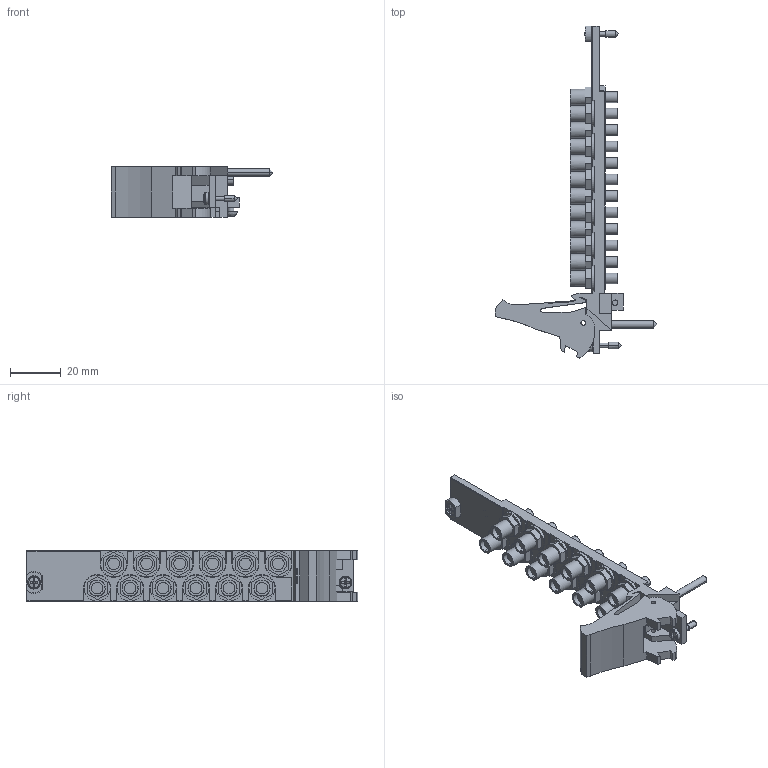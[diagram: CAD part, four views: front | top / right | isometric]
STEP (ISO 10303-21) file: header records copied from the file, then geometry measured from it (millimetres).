
FILE_DESCRIPTION((''),'2;1');
FILE_NAME('CU_PXI-2548','2009-10-06T',('jjorden'),(''),'PRO/ENGINEER BY PARAMETRIC TECHNOLOGY CORPORATION, 2006080','PRO/ENGINEER BY PARAMETRIC TECHNOLOGY CORPORATION, 2006080','');
FILE_SCHEMA(('CONFIG_CONTROL_DESIGN'));
Length unit declared in the file: inch
Products named in the file (1): CU_PXI-2548
Bounding box: 63.53 x 130.43 x 20.02 mm (x, y, z)
Volume: 21096.1 mm3; surface area: 20257.6 mm2
Topology: 14 solids, 14 shells, 977 faces, 2512 edges, 1651 vertices
Faces by surface type: plane 587, cylinder 323, cone 43, sphere 10, torus 8, bspline 6
Entity records: 30910 total; most frequent: CARTESIAN_POINT 6380, DIRECTION 5177, ORIENTED_EDGE 5008, EDGE_CURVE 2504, AXIS2_PLACEMENT_3D 1766, VERTEX_POINT 1670, VECTOR 1645, LINE 1645
